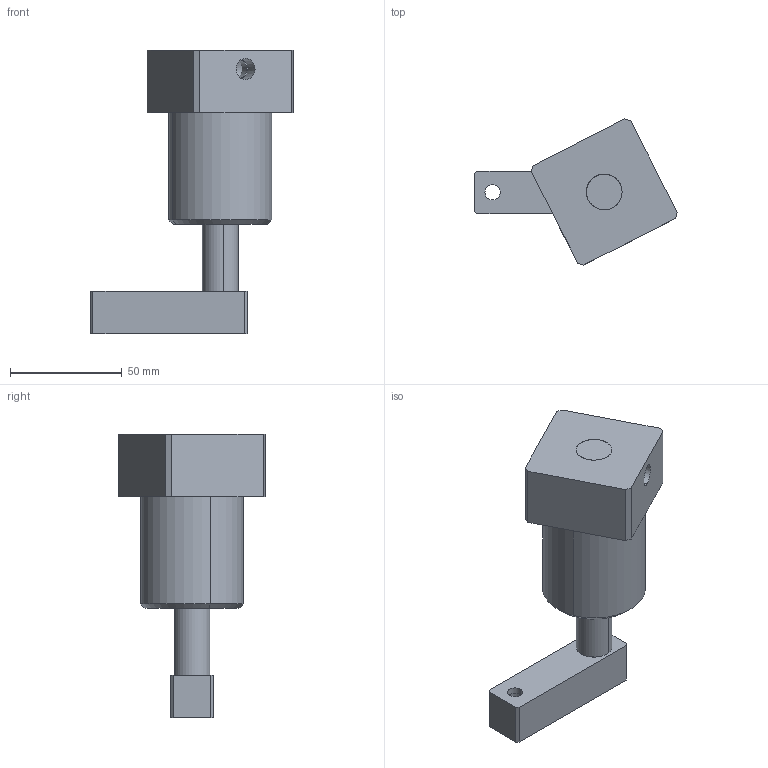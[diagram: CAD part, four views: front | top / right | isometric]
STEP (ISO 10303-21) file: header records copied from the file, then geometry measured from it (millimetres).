
FILE_DESCRIPTION (( 'STEP AP203' ), '1' );
FILE_NAME ('One side clamp ø32.STEP', '2010-02-18T14:04:12', ( 'Christophe Gaillard' ), ( 'SGA' ), 'SwSTEP 2.0', 'SolidWorks 2007', '' );
FILE_SCHEMA (( 'CONFIG_CONTROL_DESIGN' ));
Length unit declared in the file: millimetre
Products named in the file (6): Clamp One-clamp ø32_Défaut; One side clamp ø32; Fix Tige-Clamp ø32_Défaut; Corps One-clamp ø32_Défaut; Tige one-clamp ø32_Défaut; Base One clamp ø32_Défaut
Assembly tree (5 placements, depth 2):
  One side clamp ø32
    Tige one-clamp ø32_Défaut
    Clamp One-clamp ø32_Défaut
    Corps One-clamp ø32_Défaut
    Fix Tige-Clamp ø32_Défaut
    Base One clamp ø32_Défaut
Bounding box: 90.73 x 65.45 x 127 mm (x, y, z)
Volume: 178560.8 mm3; surface area: 40988.9 mm2
Topology: 5 solids, 5 shells, 93 faces, 210 edges, 127 vertices
Faces by surface type: cylinder 38, plane 33, cone 22
Entity records: 3220 total; most frequent: CARTESIAN_POINT 492, DIRECTION 482, ORIENTED_EDGE 392, EDGE_CURVE 196, AXIS2_PLACEMENT_3D 187, VERTEX_POINT 127, EDGE_LOOP 115, LINE 108
